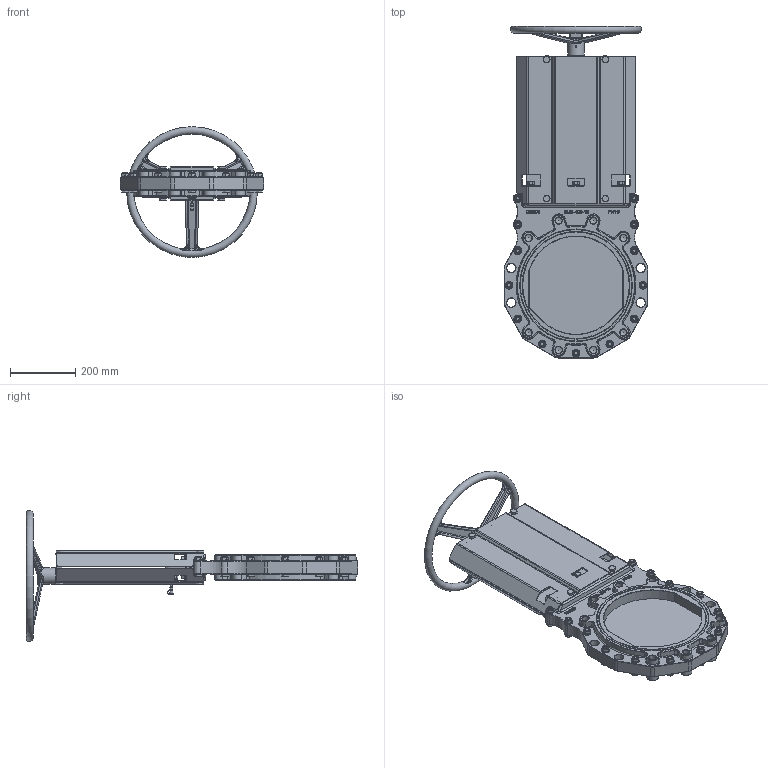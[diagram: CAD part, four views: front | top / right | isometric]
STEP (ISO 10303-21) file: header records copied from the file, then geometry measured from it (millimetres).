
FILE_DESCRIPTION(/* description */ (''),/* implementation_level */ '2;1');
FILE_NAME(/* name */ 'Non-rising stem knife gate valve with handwheel DN300-16.stp',/* time_stamp */ '2025-04-02T08:58:51+08:00',/* author */ (''),/* organization */ (''),/* preprocessor_version */ 'ST-DEVELOPER v15',/* originating_system */ 'SIEMENS PLM Software NX 10.0',/* authorisation */ '');
FILE_SCHEMA (('AP203_CONFIGURATION_CONTROLLED_3D_DESIGN_OF_MECHANICAL_PARTS_AND_ASSEMBLIES_MIM_LF { 1 0 10303 403 2 1 2}'));
Products named in the file (1): Admi271CEB492ev9
Bounding box: 440.03 x 1015.93 x 399.98 mm (x, y, z)
Volume: 10491082 mm3; surface area: 1714954 mm2
Topology: 1 solids, 17 shells, 3233 faces, 7845 edges, 4856 vertices
Faces by surface type: plane 1243, cylinder 724, bspline 462, cone 300, torus 247, extrusion 213, sphere 44
Full cylindrical faces by diameter (mm): 6 x3, 8 x1, 9 x1, 9.188 x2, 10.106 x6, 10.5 x2, 11.053 x13, 11.5 x1, 12 x32, 13 x32, 15.4 x2, 17.2 x21, 20 x2, 20.752 x16, 22.5 x1, 24 x32, 25 x3, 25.2 x1, 28 x9, 40 x3, 50 x1
Entity records: 100490 total; most frequent: CARTESIAN_POINT 30650, ORIENTED_EDGE 14730, DIRECTION 12799, EDGE_CURVE 7365, VERTEX_POINT 4779, AXIS2_PLACEMENT_3D 4737, EDGE_LOOP 3910, VECTOR 3325
